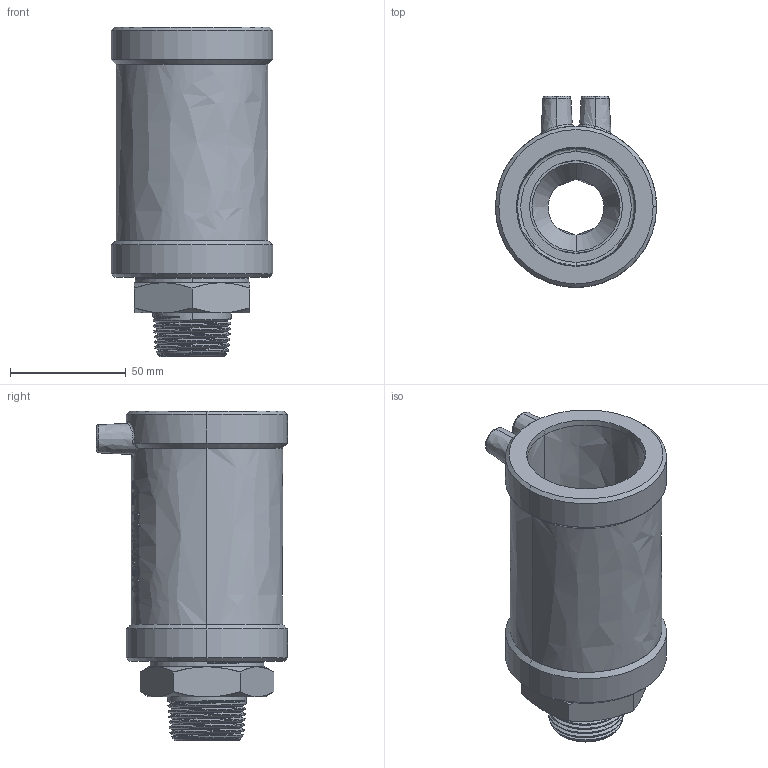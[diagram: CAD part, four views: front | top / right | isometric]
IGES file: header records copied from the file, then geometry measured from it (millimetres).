
Start section:  PTC IGES file: mun_d50_1_01.igs
Global section: file name: mun_d50_1_01.igs; native system: Pro/ENGINEER by Parametric Technology Corporation; preprocessor: 2011490; author: mtunjic; organization: Unknown; date: 20130823.151405; units: millimetre
Bounding box: 69.5 x 82.4 x 142.3 mm (x, y, z)
Surface area: 56439.7 mm2 (no closed solid volume)
Topology: 0 solids, 0 shells, 242 faces, 1234 edges, 1234 vertices
Faces by surface type: bspline 242
